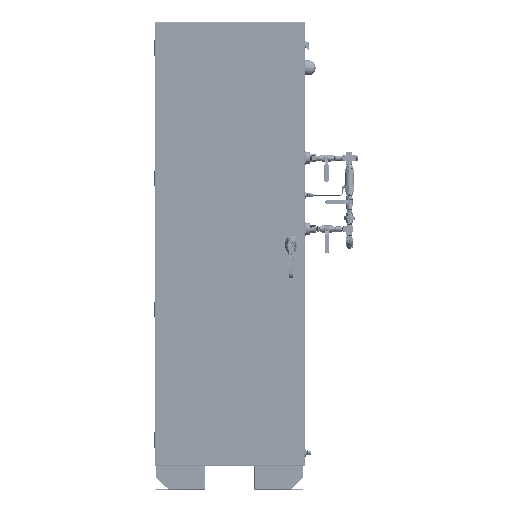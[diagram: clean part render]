
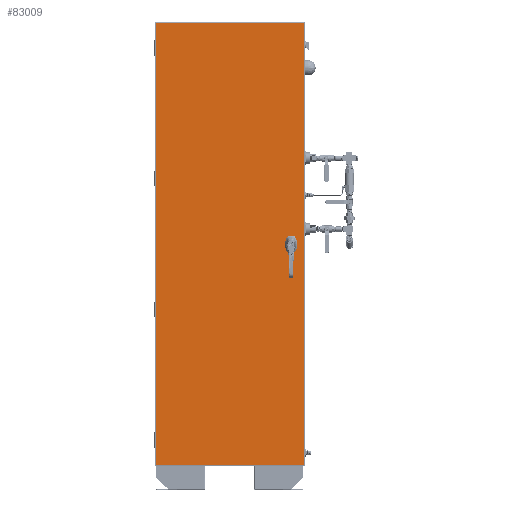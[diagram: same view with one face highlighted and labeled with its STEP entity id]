
A CAD part, top view. The second image highlights one B-rep face of the part: STEP entity #83009.
In plain terms, the highlighted planar face has unit normal (0, 0, 1).
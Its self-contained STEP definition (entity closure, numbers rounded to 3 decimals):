
#4418=B_SPLINE_CURVE_WITH_KNOTS('',3,(#273268,#273269,#273270,#273271),
 .UNSPECIFIED.,.F.,.F.,(4,4),(0.,1.),
 .UNSPECIFIED.);
#4419=B_SPLINE_CURVE_WITH_KNOTS('',3,(#273275,#273276,#273277,#273278),
 .UNSPECIFIED.,.F.,.F.,(4,4),(0.,1.),.UNSPECIFIED.);
#4420=B_SPLINE_CURVE_WITH_KNOTS('',3,(#273279,#273280,#273281,#273282,#273283,
#273284,#273285,#273286,#273287,#273288,#273289,#273290,#273291,#273292,
#273293,#273294,#273295,#273296,#273297,#273298,#273299,#273300,#273301,
#273302,#273303,#273304,#273305,#273306,#273307,#273308,#273309,#273310,
#273311,#273312,#273313),.UNSPECIFIED.,.F.,.F.,(4,1,1,1,1,1,1,1,1,1,1,1,
1,1,1,1,1,1,1,1,1,1,1,1,1,1,1,1,1,1,1,1,4),(-1.,-0.937,
-0.875,-0.844,-0.812,-0.75,
-0.719,-0.687,-0.656,-0.625,
-0.594,-0.562,-0.547,-0.531,
-0.516,-0.5,-0.484,-0.469,
-0.437,-0.422,-0.406,-0.375,
-0.344,-0.312,-0.281,-0.25,
-0.219,-0.187,-0.156,-0.125,
-0.094,-0.062,0.),.UNSPECIFIED.);
#7534=LINE('',#273129,#12589);
#7543=LINE('',#273151,#12598);
#7556=LINE('',#273176,#12611);
#7564=LINE('',#273192,#12619);
#12589=VECTOR('',#101433,39.37);
#12598=VECTOR('',#101462,39.37);
#12611=VECTOR('',#101493,39.37);
#12619=VECTOR('',#101517,39.37);
#16880=FACE_BOUND('',#23613,.T.);
#16881=FACE_BOUND('',#23614,.T.);
#16882=FACE_BOUND('',#23615,.T.);
#19104=FACE_OUTER_BOUND('',#23612,.T.);
#23612=EDGE_LOOP('',(#61198,#61199,#61200,#61201));
#23613=EDGE_LOOP('',(#61202,#61203,#61204,#61205));
#23614=EDGE_LOOP('',(#61206,#61207));
#23615=EDGE_LOOP('',(#61208,#61209));
#27591=CIRCLE('',#88502,0.045);
#27592=CIRCLE('',#88503,0.045);
#27594=CIRCLE('',#88506,0.045);
#27595=CIRCLE('',#88507,0.045);
#27644=CIRCLE('',#88663,1.752);
#33439=VERTEX_POINT('',#272306);
#33440=VERTEX_POINT('',#272308);
#33442=VERTEX_POINT('',#272314);
#33443=VERTEX_POINT('',#272316);
#33632=VERTEX_POINT('',#273126);
#33633=VERTEX_POINT('',#273128);
#33636=VERTEX_POINT('',#273149);
#33639=VERTEX_POINT('',#273174);
#33655=VERTEX_POINT('',#273266);
#33656=VERTEX_POINT('',#273267);
#33657=VERTEX_POINT('',#273272);
#33658=VERTEX_POINT('',#273274);
#43350=EDGE_CURVE('',#33439,#33440,#27591,.T.);
#43351=EDGE_CURVE('',#33440,#33439,#27592,.T.);
#43354=EDGE_CURVE('',#33442,#33443,#27594,.T.);
#43355=EDGE_CURVE('',#33443,#33442,#27595,.T.);
#43589=EDGE_CURVE('',#33633,#33632,#7534,.T.);
#43603=EDGE_CURVE('',#33632,#33636,#7543,.T.);
#43620=EDGE_CURVE('',#33636,#33639,#7556,.T.);
#43631=EDGE_CURVE('',#33639,#33633,#7564,.T.);
#43665=EDGE_CURVE('',#33655,#33656,#4418,.T.);
#43666=EDGE_CURVE('',#33656,#33657,#27644,.T.);
#43667=EDGE_CURVE('',#33657,#33658,#4419,.T.);
#43668=EDGE_CURVE('',#33658,#33655,#4420,.T.);
#61198=ORIENTED_EDGE('',*,*,#43631,.T.);
#61199=ORIENTED_EDGE('',*,*,#43589,.T.);
#61200=ORIENTED_EDGE('',*,*,#43603,.T.);
#61201=ORIENTED_EDGE('',*,*,#43620,.T.);
#61202=ORIENTED_EDGE('',*,*,#43665,.T.);
#61203=ORIENTED_EDGE('',*,*,#43666,.T.);
#61204=ORIENTED_EDGE('',*,*,#43667,.T.);
#61205=ORIENTED_EDGE('',*,*,#43668,.T.);
#61206=ORIENTED_EDGE('',*,*,#43351,.F.);
#61207=ORIENTED_EDGE('',*,*,#43350,.F.);
#61208=ORIENTED_EDGE('',*,*,#43355,.F.);
#61209=ORIENTED_EDGE('',*,*,#43354,.F.);
#75719=PLANE('',#88662);
#83009=ADVANCED_FACE('',(#19104,#16880,#16881,#16882),#75719,.F.);
#88502=AXIS2_PLACEMENT_3D('',#272309,#101054,#101055);
#88503=AXIS2_PLACEMENT_3D('',#272310,#101056,#101057);
#88506=AXIS2_PLACEMENT_3D('',#272317,#101063,#101064);
#88507=AXIS2_PLACEMENT_3D('',#272318,#101065,#101066);
#88662=AXIS2_PLACEMENT_3D('',#273265,#101604,#101605);
#88663=AXIS2_PLACEMENT_3D('',#273273,#101606,#101607);
#101054=DIRECTION('center_axis',(0.,0.,
1.));
#101055=DIRECTION('ref_axis',(1.,0.,0.));
#101056=DIRECTION('center_axis',(0.,0.,
1.));
#101057=DIRECTION('ref_axis',(1.,0.,0.));
#101063=DIRECTION('center_axis',(0.,0.,
1.));
#101064=DIRECTION('ref_axis',(1.,0.,0.));
#101065=DIRECTION('center_axis',(0.,0.,
1.));
#101066=DIRECTION('ref_axis',(1.,0.,0.));
#101433=DIRECTION('',(-1.,0.,0.));
#101462=DIRECTION('',(0.,-1.,0.));
#101493=DIRECTION('',(1.,0.,0.));
#101517=DIRECTION('',(0.,1.,0.));
#101604=DIRECTION('center_axis',(0.,0.,
-1.));
#101605=DIRECTION('ref_axis',(-1.,0.,0.));
#101606=DIRECTION('center_axis',(0.,0.,
-1.));
#101607=DIRECTION('ref_axis',(0.,1.,0.));
#272306=CARTESIAN_POINT('',(17.213,40.062,12.387));
#272308=CARTESIAN_POINT('',(17.303,40.062,12.387));
#272309=CARTESIAN_POINT('Origin',(17.258,40.062,12.387));
#272310=CARTESIAN_POINT('Origin',(17.258,40.062,12.387));
#272314=CARTESIAN_POINT('',(6.713,40.062,12.387));
#272316=CARTESIAN_POINT('',(6.803,40.062,12.387));
#272317=CARTESIAN_POINT('Origin',(6.758,40.062,12.387));
#272318=CARTESIAN_POINT('Origin',(6.758,40.062,12.387));
#273126=CARTESIAN_POINT('',(-0.071,76.148,12.387));
#273128=CARTESIAN_POINT('',(24.086,76.148,12.387));
#273129=CARTESIAN_POINT('',(24.086,76.148,12.387));
#273149=CARTESIAN_POINT('',(-0.071,3.976,12.387));
#273151=CARTESIAN_POINT('',(-0.071,76.187,12.387));
#273174=CARTESIAN_POINT('',(24.086,3.976,12.387));
#273176=CARTESIAN_POINT('',(-0.11,3.976,12.387));
#273192=CARTESIAN_POINT('',(24.086,3.976,12.387));
#273265=CARTESIAN_POINT('Origin',(-0.11,76.187,12.387));
#273266=CARTESIAN_POINT('',(21.363,41.193,12.387));
#273267=CARTESIAN_POINT('',(21.536,41.313,12.387));
#273268=CARTESIAN_POINT('Ctrl Pts',(21.363,41.193,12.387));
#273269=CARTESIAN_POINT('Ctrl Pts',(21.405,41.251,12.387));
#273270=CARTESIAN_POINT('Ctrl Pts',(21.467,41.294,12.387));
#273271=CARTESIAN_POINT('Ctrl Pts',(21.536,41.313,12.387));
#273272=CARTESIAN_POINT('',(22.448,41.313,12.387));
#273273=CARTESIAN_POINT('Origin',(21.992,39.621,12.387));
#273274=CARTESIAN_POINT('',(22.621,41.193,12.387));
#273275=CARTESIAN_POINT('Ctrl Pts',(22.448,41.313,12.387));
#273276=CARTESIAN_POINT('Ctrl Pts',(22.517,41.294,12.387));
#273277=CARTESIAN_POINT('Ctrl Pts',(22.579,41.251,12.387));
#273278=CARTESIAN_POINT('Ctrl Pts',(22.621,41.193,12.387));
#273279=CARTESIAN_POINT('Ctrl Pts',(22.621,41.193,12.387));
#273280=CARTESIAN_POINT('Ctrl Pts',(22.701,41.082,12.387));
#273281=CARTESIAN_POINT('Ctrl Pts',(22.825,40.837,12.387));
#273282=CARTESIAN_POINT('Ctrl Pts',(22.913,40.512,12.387));
#273283=CARTESIAN_POINT('Ctrl Pts',(22.949,40.242,12.387));
#273284=CARTESIAN_POINT('Ctrl Pts',(22.963,39.973,12.387));
#273285=CARTESIAN_POINT('Ctrl Pts',(22.944,39.705,12.387));
#273286=CARTESIAN_POINT('Ctrl Pts',(22.891,39.438,12.387));
#273287=CARTESIAN_POINT('Ctrl Pts',(22.833,39.244,12.387));
#273288=CARTESIAN_POINT('Ctrl Pts',(22.756,39.057,12.387));
#273289=CARTESIAN_POINT('Ctrl Pts',(22.656,38.878,12.387));
#273290=CARTESIAN_POINT('Ctrl Pts',(22.532,38.718,12.387));
#273291=CARTESIAN_POINT('Ctrl Pts',(22.404,38.603,12.387));
#273292=CARTESIAN_POINT('Ctrl Pts',(22.288,38.532,12.387));
#273293=CARTESIAN_POINT('Ctrl Pts',(22.193,38.491,12.387));
#273294=CARTESIAN_POINT('Ctrl Pts',(22.095,38.465,12.387));
#273295=CARTESIAN_POINT('Ctrl Pts',(21.991,38.457,12.387));
#273296=CARTESIAN_POINT('Ctrl Pts',(21.89,38.465,12.387));
#273297=CARTESIAN_POINT('Ctrl Pts',(21.757,38.5,12.387));
#273298=CARTESIAN_POINT('Ctrl Pts',(21.636,38.564,12.387));
#273299=CARTESIAN_POINT('Ctrl Pts',(21.529,38.649,12.387));
#273300=CARTESIAN_POINT('Ctrl Pts',(21.432,38.743,12.387));
#273301=CARTESIAN_POINT('Ctrl Pts',(21.328,38.879,12.387));
#273302=CARTESIAN_POINT('Ctrl Pts',(21.228,39.056,12.387));
#273303=CARTESIAN_POINT('Ctrl Pts',(21.15,39.246,12.387));
#273304=CARTESIAN_POINT('Ctrl Pts',(21.093,39.44,12.387));
#273305=CARTESIAN_POINT('Ctrl Pts',(21.054,39.638,12.387));
#273306=CARTESIAN_POINT('Ctrl Pts',(21.031,39.838,12.387));
#273307=CARTESIAN_POINT('Ctrl Pts',(21.025,40.043,12.387));
#273308=CARTESIAN_POINT('Ctrl Pts',(21.035,40.245,12.387));
#273309=CARTESIAN_POINT('Ctrl Pts',(21.062,40.445,12.387));
#273310=CARTESIAN_POINT('Ctrl Pts',(21.106,40.642,12.387));
#273311=CARTESIAN_POINT('Ctrl Pts',(21.191,40.902,12.387));
#273312=CARTESIAN_POINT('Ctrl Pts',(21.283,41.082,12.387));
#273313=CARTESIAN_POINT('Ctrl Pts',(21.363,41.193,12.387));
